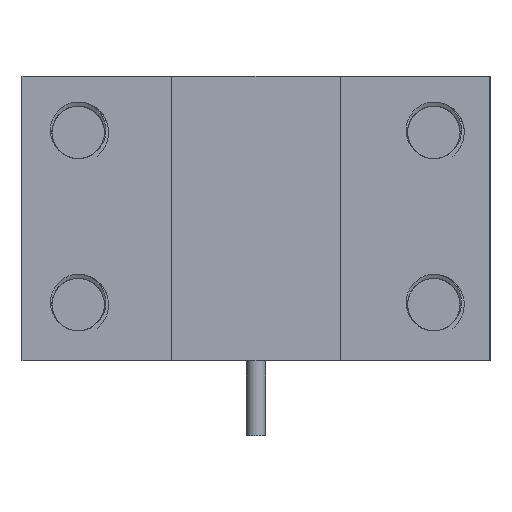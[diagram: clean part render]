
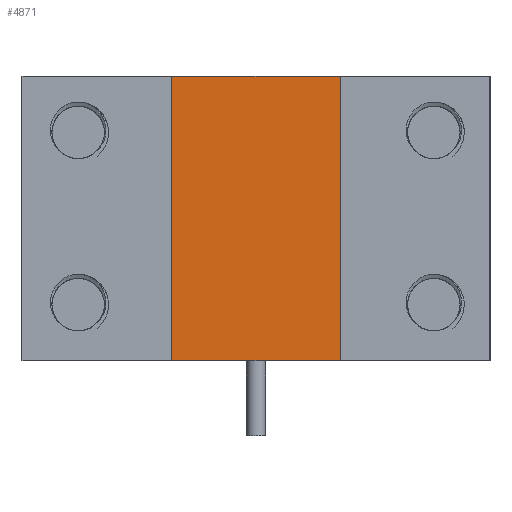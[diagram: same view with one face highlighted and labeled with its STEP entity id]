
A CAD part, left-side view. The second image highlights one B-rep face of the part: STEP entity #4871.
In plain terms, the highlighted planar face has unit normal (-1, 0, 0).
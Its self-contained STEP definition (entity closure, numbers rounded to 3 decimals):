
#65=PLANE('',#5189);
#390=FACE_OUTER_BOUND('',#662,.T.);
#662=EDGE_LOOP('',(#4206,#4207,#4208,#4209));
#1326=LINE('',#29263,#1619);
#1332=LINE('',#29275,#1625);
#1333=LINE('',#29277,#1626);
#1334=LINE('',#29278,#1627);
#1619=VECTOR('',#6018,10.);
#1625=VECTOR('',#6026,10.);
#1626=VECTOR('',#6029,10.);
#1627=VECTOR('',#6030,10.);
#2130=VERTEX_POINT('',#29259);
#2132=VERTEX_POINT('',#29262);
#2135=VERTEX_POINT('',#29269);
#2137=VERTEX_POINT('',#29273);
#2850=EDGE_CURVE('',#2130,#2132,#1326,.T.);
#2856=EDGE_CURVE('',#2137,#2135,#1332,.T.);
#2857=EDGE_CURVE('',#2135,#2130,#1333,.T.);
#2858=EDGE_CURVE('',#2132,#2137,#1334,.T.);
#4206=ORIENTED_EDGE('',*,*,#2857,.F.);
#4207=ORIENTED_EDGE('',*,*,#2856,.F.);
#4208=ORIENTED_EDGE('',*,*,#2858,.F.);
#4209=ORIENTED_EDGE('',*,*,#2850,.F.);
#4871=ADVANCED_FACE('',(#390),#65,.F.);
#5189=AXIS2_PLACEMENT_3D('',#29276,#6027,#6028);
#6018=DIRECTION('',(0.,0.,1.));
#6026=DIRECTION('',(0.,0.,-1.));
#6027=DIRECTION('center_axis',(1.,0.,0.));
#6028=DIRECTION('ref_axis',(0.,1.,0.));
#6029=DIRECTION('',(0.,1.,0.));
#6030=DIRECTION('',(0.,-1.,0.));
#29259=CARTESIAN_POINT('',(-86.,22.5,-38.));
#29262=CARTESIAN_POINT('',(-86.,22.5,38.));
#29263=CARTESIAN_POINT('',(-86.,22.5,0.));
#29269=CARTESIAN_POINT('',(-86.,-22.5,-38.));
#29273=CARTESIAN_POINT('',(-86.,-22.5,38.));
#29275=CARTESIAN_POINT('',(-86.,-22.5,0.));
#29276=CARTESIAN_POINT('Origin',(-86.,-22.5,0.));
#29277=CARTESIAN_POINT('',(-86.,-42.5,-38.));
#29278=CARTESIAN_POINT('',(-86.,20.,38.));
